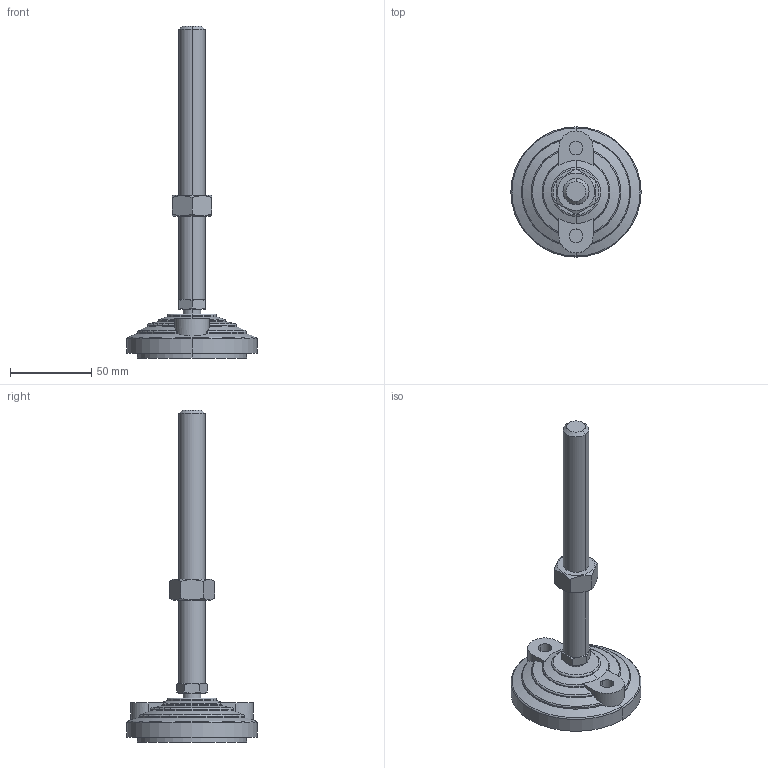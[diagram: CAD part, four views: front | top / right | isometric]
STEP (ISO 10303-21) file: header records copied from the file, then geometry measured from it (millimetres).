
FILE_DESCRIPTION (( 'STEP AP203' ), '1' );
FILE_NAME ('lvfr80s16d.STEP', '2021-10-25T03:55:52', ( '' ), ( '' ), 'SwSTEP 2.0', 'SolidWorks 2020', '' );
FILE_SCHEMA (( 'CONFIG_CONTROL_DESIGN' ));
Length unit declared in the file: millimetre
Products named in the file (3): lvfr80s16d_01; lvfr80s16d; lvfr80s16d_02
Assembly tree (2 placements, depth 2):
  lvfr80s16d
    lvfr80s16d_01
    lvfr80s16d_02
Bounding box: 80 x 80 x 204 mm (x, y, z)
Volume: 133450.2 mm3; surface area: 26962.2 mm2
Topology: 2 solids, 2 shells, 90 faces, 215 edges, 134 vertices
Faces by surface type: cone 28, plane 27, cylinder 25, torus 10
Entity records: 3256 total; most frequent: CARTESIAN_POINT 932, ORIENTED_EDGE 430, DIRECTION 419, EDGE_CURVE 215, AXIS2_PLACEMENT_3D 179, VERTEX_POINT 134, EDGE_LOOP 97, ADVANCED_FACE 90
